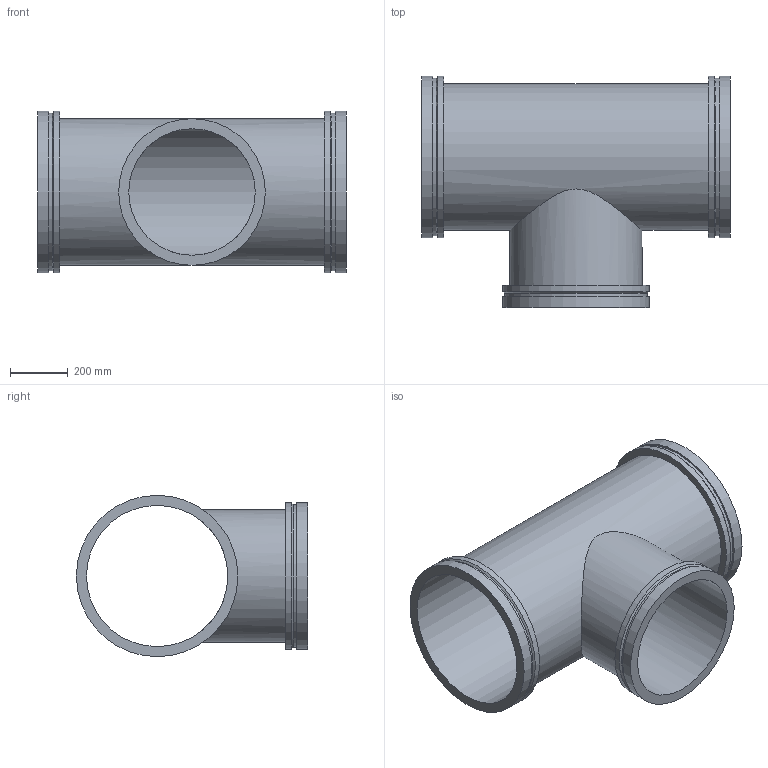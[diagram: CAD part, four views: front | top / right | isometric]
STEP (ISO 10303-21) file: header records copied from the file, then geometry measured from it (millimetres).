
FILE_DESCRIPTION(/* description */ ('VIC REDUCING TEE No W025 VR','CAx-IF Rec.Pracs.---Representation and Presentation of Product Manufacturing Information (PMI)---4.0---2014-10-13'),/* implementation_level */ '2;1');
FILE_NAME(/* name */ 'C:\Users\kkamble\AppData\Roaming\Autodesk\ApplicationPlugins\Back Up\Victaulic_Vic-Ring_Tee Reducing_No W25 VR (AGR)\Victaulic_Vic-Ring_Tee Reducing_No W25 VR (AGR)_20.0x18.0 (500x450).stp',/* time_stamp */ '2020-09-10T11:52:59+05:00',/* author */ ('mchristi'),/* organization */ ('Victaulic'),/* preprocessor_version */ 'ST-DEVELOPER v17.2',/* originating_system */ 'Autodesk Inventor 2019',/* authorisation */ '');
FILE_SCHEMA (('AP242_MANAGED_MODEL_BASED_3D_ENGINEERING_MIM_LF { 1 0 10303 442 1 1 4 }'));
Length unit declared in the file: inch
Products named in the file (1): W25 VR-20.0x18.0
Bounding box: 1066.8 x 800.1 x 558.8 mm (x, y, z)
Volume: 27624233.9 mm3; surface area: 4288922.3 mm2
Topology: 1 solids, 1 shells, 25 faces, 68 edges, 52 vertices
Faces by surface type: cylinder 13, plane 9, cone 3
Full cylindrical faces by diameter (mm): 438.15 x1, 457.2 x1, 488.95 x1, 495.3 x1, 508 x3, 546.1 x2, 558.8 x4
Entity records: 1251 total; most frequent: CARTESIAN_POINT 407, DIRECTION 190, ORIENTED_EDGE 136, AXIS2_PLACEMENT_3D 87, EDGE_CURVE 68, VERTEX_POINT 52, CIRCLE 48, EDGE_LOOP 36
